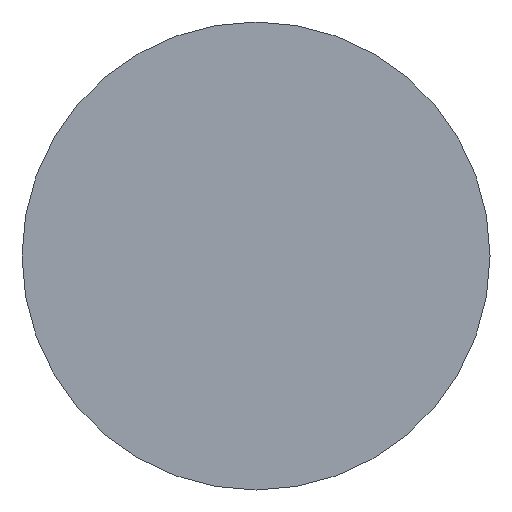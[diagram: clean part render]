
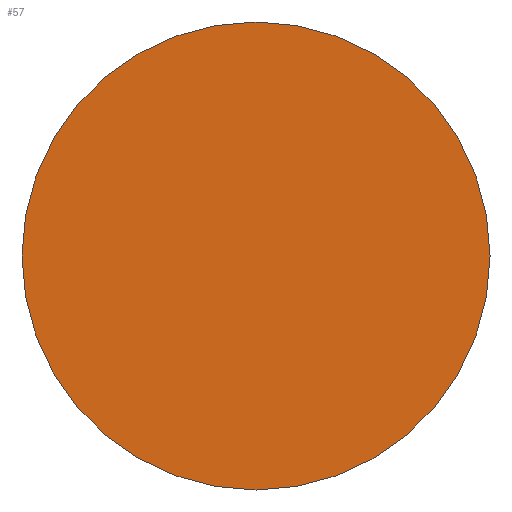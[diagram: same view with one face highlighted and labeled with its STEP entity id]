
A CAD part, front view. The second image highlights one B-rep face of the part: STEP entity #57.
In plain terms, the highlighted planar face has unit normal (0, -1, 0).
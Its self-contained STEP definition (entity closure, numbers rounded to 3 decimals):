
#19 = CARTESIAN_POINT ( 'NONE',  ( 0., 0., 0. ) ) ;
#28 = DIRECTION ( 'NONE',  ( 0., 1., 0. ) ) ;
#29 = CARTESIAN_POINT ( 'NONE',  ( 0., 0., 0. ) ) ;
#47 = DIRECTION ( 'NONE',  ( 0., 1., 0. ) ) ;
#50 = VERTEX_POINT ( 'NONE', #64 ) ;
#57 = ADVANCED_FACE ( 'NONE', ( #162 ), #284, .F. ) ;
#64 = CARTESIAN_POINT ( 'NONE',  ( 0., 0., -20. ) ) ;
#100 = DIRECTION ( 'NONE',  ( 0., 0., 1. ) ) ;
#108 = DIRECTION ( 'NONE',  ( 0., 1., 0. ) ) ;
#139 = EDGE_LOOP ( 'NONE', ( #322, #256 ) ) ;
#153 = VERTEX_POINT ( 'NONE', #194 ) ;
#162 = FACE_OUTER_BOUND ( 'NONE', #139, .T. ) ;
#168 = AXIS2_PLACEMENT_3D ( 'NONE', #29, #108, #293 ) ;
#181 = CARTESIAN_POINT ( 'NONE',  ( 0., 0., 0. ) ) ;
#194 = CARTESIAN_POINT ( 'NONE',  ( 0., 0., 20. ) ) ;
#229 = CIRCLE ( 'NONE', #168, 20. ) ;
#250 = DIRECTION ( 'NONE',  ( 0., 0., 1. ) ) ;
#256 = ORIENTED_EDGE ( 'NONE', *, *, #287, .F. ) ;
#258 = CIRCLE ( 'NONE', #277, 20. ) ;
#262 = AXIS2_PLACEMENT_3D ( 'NONE', #19, #47, #100 ) ;
#277 = AXIS2_PLACEMENT_3D ( 'NONE', #181, #28, #250 ) ;
#284 = PLANE ( 'NONE',  #262 ) ;
#287 = EDGE_CURVE ( 'NONE', #153, #50, #229, .T. ) ;
#293 = DIRECTION ( 'NONE',  ( 0., 0., 1. ) ) ;
#319 = EDGE_CURVE ( 'NONE', #50, #153, #258, .T. ) ;
#322 = ORIENTED_EDGE ( 'NONE', *, *, #319, .F. ) ;
